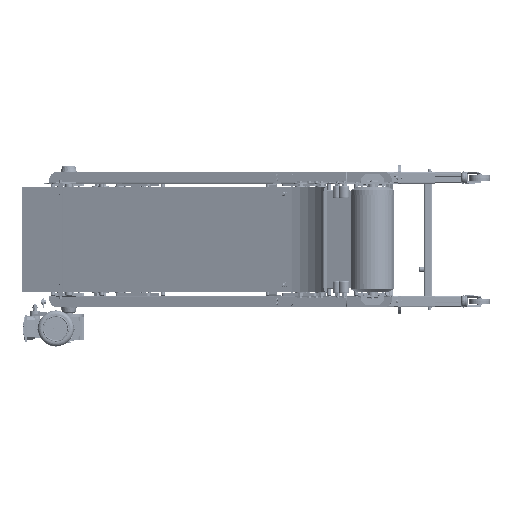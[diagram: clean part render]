
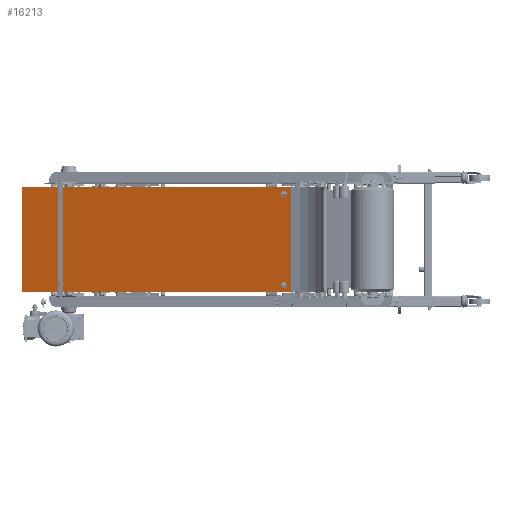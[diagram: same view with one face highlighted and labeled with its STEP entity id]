
A CAD part, left-side view. The second image highlights one B-rep face of the part: STEP entity #16213.
In plain terms, the highlighted planar face has unit normal (-0.94, 0.342, 0) as drawn and (0, 0, 1) by its records, which use the part's own axes.
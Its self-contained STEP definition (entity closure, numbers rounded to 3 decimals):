
#11879=PLANE('',#95448);
#13175=FACE_BOUND('',#27261,.T.);
#13176=FACE_BOUND('',#27262,.T.);
#13177=FACE_BOUND('',#27263,.T.);
#13178=FACE_BOUND('',#27264,.T.);
#13179=FACE_BOUND('',#27265,.T.);
#16213=ADVANCED_FACE('',(#13175,#13176,#13177,#13178,#13179),#11879,.T.);
#27261=EDGE_LOOP('',(#54290,#54291));
#27262=EDGE_LOOP('',(#54292,#54293));
#27263=EDGE_LOOP('',(#54294,#54295));
#27264=EDGE_LOOP('',(#54296,#54297));
#27265=EDGE_LOOP('',(#54298,#54299,#54300,#54301));
#33053=LINE('',#148258,#39379);
#33056=LINE('',#148264,#39382);
#33058=LINE('',#148268,#39384);
#33060=LINE('',#148272,#39386);
#39379=VECTOR('',#110895,1.);
#39382=VECTOR('',#110900,1.);
#39384=VECTOR('',#110904,1.);
#39386=VECTOR('',#110908,1.);
#54290=ORIENTED_EDGE('',*,*,#81218,.T.);
#54291=ORIENTED_EDGE('',*,*,#81240,.T.);
#54292=ORIENTED_EDGE('',*,*,#81222,.T.);
#54293=ORIENTED_EDGE('',*,*,#81241,.T.);
#54294=ORIENTED_EDGE('',*,*,#81226,.T.);
#54295=ORIENTED_EDGE('',*,*,#81242,.T.);
#54296=ORIENTED_EDGE('',*,*,#81230,.T.);
#54297=ORIENTED_EDGE('',*,*,#81243,.T.);
#54298=ORIENTED_EDGE('',*,*,#81249,.F.);
#54299=ORIENTED_EDGE('',*,*,#81247,.F.);
#54300=ORIENTED_EDGE('',*,*,#81244,.F.);
#54301=ORIENTED_EDGE('',*,*,#81251,.F.);
#71180=VERTEX_POINT('',#148205);
#71181=VERTEX_POINT('',#148207);
#71184=VERTEX_POINT('',#148214);
#71185=VERTEX_POINT('',#148216);
#71188=VERTEX_POINT('',#148223);
#71189=VERTEX_POINT('',#148225);
#71192=VERTEX_POINT('',#148232);
#71193=VERTEX_POINT('',#148234);
#71198=VERTEX_POINT('',#148259);
#71199=VERTEX_POINT('',#148260);
#71200=VERTEX_POINT('',#148265);
#71201=VERTEX_POINT('',#148269);
#81218=EDGE_CURVE('',#71181,#71180,#89349,.T.);
#81222=EDGE_CURVE('',#71185,#71184,#89351,.T.);
#81226=EDGE_CURVE('',#71189,#71188,#89353,.T.);
#81230=EDGE_CURVE('',#71193,#71192,#89355,.T.);
#81240=EDGE_CURVE('',#71180,#71181,#89360,.T.);
#81241=EDGE_CURVE('',#71184,#71185,#89361,.T.);
#81242=EDGE_CURVE('',#71188,#71189,#89362,.T.);
#81243=EDGE_CURVE('',#71192,#71193,#89363,.T.);
#81244=EDGE_CURVE('',#71198,#71199,#33053,.T.);
#81247=EDGE_CURVE('',#71199,#71200,#33056,.T.);
#81249=EDGE_CURVE('',#71200,#71201,#33058,.T.);
#81251=EDGE_CURVE('',#71201,#71198,#33060,.T.);
#89349=CIRCLE('',#95420,4.5);
#89351=CIRCLE('',#95423,4.5);
#89353=CIRCLE('',#95426,4.5);
#89355=CIRCLE('',#95429,4.5);
#89360=CIRCLE('',#95436,4.5);
#89361=CIRCLE('',#95438,4.5);
#89362=CIRCLE('',#95440,4.5);
#89363=CIRCLE('',#95442,4.5);
#95420=AXIS2_PLACEMENT_3D('',#148206,#110836,#110837);
#95423=AXIS2_PLACEMENT_3D('',#148215,#110844,#110845);
#95426=AXIS2_PLACEMENT_3D('',#148224,#110852,#110853);
#95429=AXIS2_PLACEMENT_3D('',#148233,#110860,#110861);
#95436=AXIS2_PLACEMENT_3D('',#148250,#110879,#110880);
#95438=AXIS2_PLACEMENT_3D('',#148252,#110883,#110884);
#95440=AXIS2_PLACEMENT_3D('',#148254,#110887,#110888);
#95442=AXIS2_PLACEMENT_3D('',#148256,#110891,#110892);
#95448=AXIS2_PLACEMENT_3D('',#148274,#110911,#110912);
#110836=DIRECTION('',(0.,0.,-1.));
#110837=DIRECTION('',(1.,0.,0.));
#110844=DIRECTION('',(0.,0.,-1.));
#110845=DIRECTION('',(1.,0.,0.));
#110852=DIRECTION('',(0.,0.,-1.));
#110853=DIRECTION('',(1.,0.,0.));
#110860=DIRECTION('',(0.,0.,-1.));
#110861=DIRECTION('',(1.,0.,0.));
#110879=DIRECTION('',(0.,0.,-1.));
#110880=DIRECTION('',(1.,0.,0.));
#110883=DIRECTION('',(0.,0.,-1.));
#110884=DIRECTION('',(1.,0.,0.));
#110887=DIRECTION('',(0.,0.,-1.));
#110888=DIRECTION('',(1.,0.,0.));
#110891=DIRECTION('',(0.,0.,-1.));
#110892=DIRECTION('',(1.,0.,0.));
#110895=DIRECTION('',(-1.,0.,0.));
#110900=DIRECTION('',(0.,1.,0.));
#110904=DIRECTION('',(1.,0.,0.));
#110908=DIRECTION('',(0.,-1.,0.));
#110911=DIRECTION('',(0.,0.,1.));
#110912=DIRECTION('',(-1.,0.,0.));
#148205=CARTESIAN_POINT('',(370.5,30.,3.));
#148206=CARTESIAN_POINT('',(375.,30.,3.));
#148207=CARTESIAN_POINT('',(379.5,30.,3.));
#148214=CARTESIAN_POINT('',(20.5,30.,3.));
#148215=CARTESIAN_POINT('',(25.,30.,3.));
#148216=CARTESIAN_POINT('',(29.5,30.,3.));
#148223=CARTESIAN_POINT('',(370.5,940.,3.));
#148224=CARTESIAN_POINT('',(375.,940.,3.));
#148225=CARTESIAN_POINT('',(379.5,940.,3.));
#148232=CARTESIAN_POINT('',(20.5,940.,3.));
#148233=CARTESIAN_POINT('',(25.,940.,3.));
#148234=CARTESIAN_POINT('',(29.5,940.,3.));
#148250=CARTESIAN_POINT('',(375.,30.,3.));
#148252=CARTESIAN_POINT('',(25.,30.,3.));
#148254=CARTESIAN_POINT('',(375.,940.,3.));
#148256=CARTESIAN_POINT('',(25.,940.,3.));
#148258=CARTESIAN_POINT('',(0.,0.,3.));
#148259=CARTESIAN_POINT('',(400.,0.,3.));
#148260=CARTESIAN_POINT('',(0.,0.,3.));
#148264=CARTESIAN_POINT('',(0.,1100.,3.));
#148265=CARTESIAN_POINT('',(0.,1100.,3.));
#148268=CARTESIAN_POINT('',(400.,1100.,3.));
#148269=CARTESIAN_POINT('',(400.,1100.,3.));
#148272=CARTESIAN_POINT('',(400.,0.,3.));
#148274=CARTESIAN_POINT('',(200.,550.,3.));
